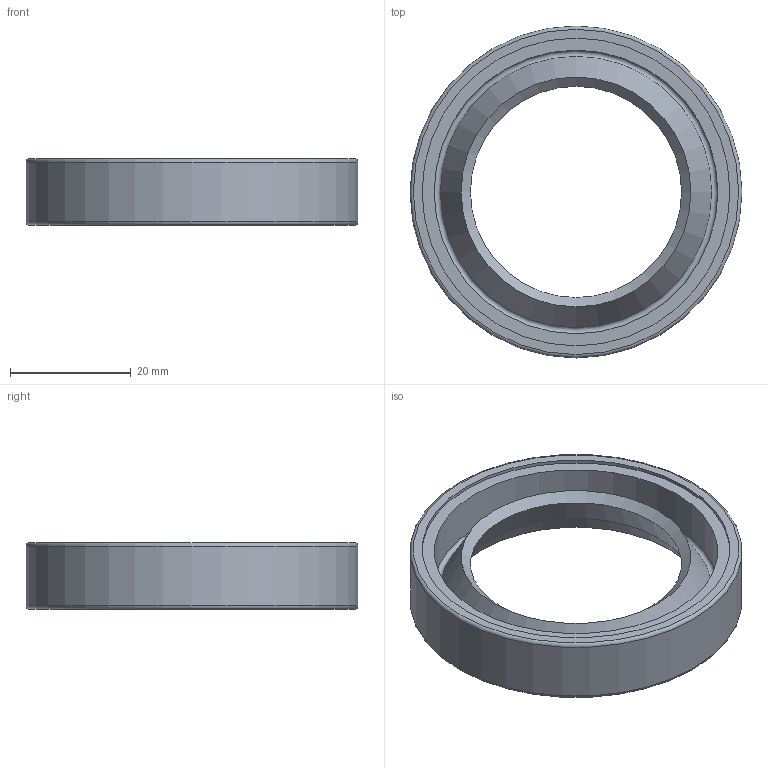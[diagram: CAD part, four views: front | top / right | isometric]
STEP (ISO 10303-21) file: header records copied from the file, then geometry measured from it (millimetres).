
FILE_DESCRIPTION(/* description */ ('오일 실 - 비스프링, 조립 GA'),/* implementation_level */ '2;1');
FILE_NAME(/* name */ '',/* time_stamp */ '2025-05-23T15:40:33+09:00',/* author */ ('jhkim'),/* organization */ (''),/* preprocessor_version */ 'ST-DEVELOPER v20.1',/* originating_system */ 'Autodesk Inventor 2026',/* authorisation */ '');
FILE_SCHEMA (('AUTOMOTIVE_DESIGN { 1 0 10303 214 3 1 1 }'));
Length unit declared in the file: millimetre
Products named in the file (1): 오일 실 35 55 11
Bounding box: 55 x 55 x 11 mm (x, y, z)
Volume: 9628.1 mm3; surface area: 6975.9 mm2
Topology: 1 solids, 1 shells, 15 faces, 27 edges, 15 vertices
Faces by surface type: cone 5, torus 4, cylinder 3, plane 3
Full cylindrical faces by diameter (mm): 47 x1, 51 x1, 55 x1
Entity records: 415 total; most frequent: DIRECTION 78, CARTESIAN_POINT 58, ORIENTED_EDGE 54, AXIS2_PLACEMENT_3D 35, EDGE_CURVE 27, CIRCLE 19, EDGE_LOOP 18, FACE_OUTER_BOUND 15
